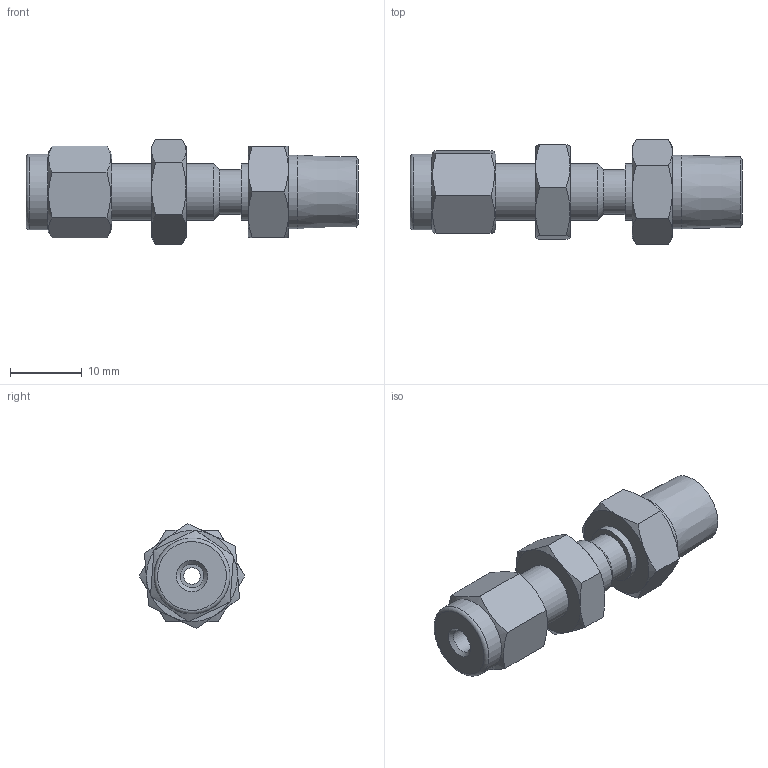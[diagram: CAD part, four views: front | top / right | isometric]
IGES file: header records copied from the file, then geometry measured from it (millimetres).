
Global section: file name: No Iges File Name specified; native system: Autodesk Inventor 2012; preprocessor: AutoDesk Inventor Iges Exporter R2012; author: 硅己绕,, ; organization: 11; date: 20150603.092441; units: millimetre
Bounding box: 46.26 x 14.66 x 14.62 mm (x, y, z)
Volume: 3772.1 mm3; surface area: 3014.4 mm2
Topology: 3 solids, 3 shells, 74 faces, 152 edges, 89 vertices
Faces by surface type: cone 30, plane 29, revolution 8, cylinder 6, torus 1
Full cylindrical faces by diameter (mm): 6.28 x2, 7.9 x1, 7.94 x1, 10.28 x1, 10.6 x1
